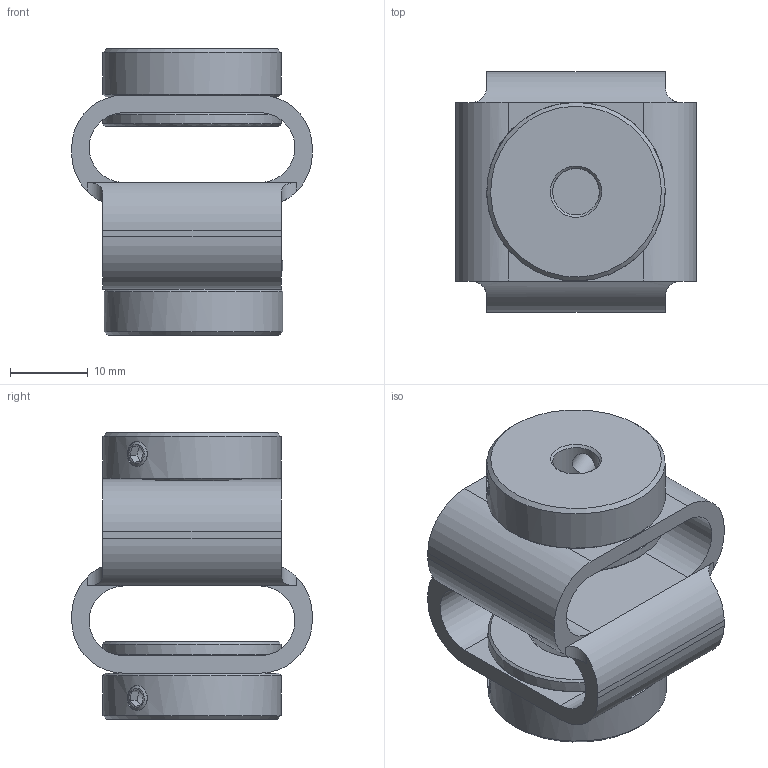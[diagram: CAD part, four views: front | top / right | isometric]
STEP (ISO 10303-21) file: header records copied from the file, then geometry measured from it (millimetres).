
FILE_DESCRIPTION(/* description */ (''),/* implementation_level */ '2;1');
FILE_NAME(/* name */ 'E:\ABP_bauteile\Doppelschlaufenkupplung\DKPS_3835\Doppelschlaufenkupplung_DKPS_3835_06_12.stp',/* time_stamp */ '2015-03-09T15:01:00+01:00',/* author */ ('Rob'),/* organization */ (''),/* preprocessor_version */ 'ST-DEVELOPER v15.6',/* originating_system */ 'Autodesk Inventor 2015',/* authorisation */ '');
FILE_SCHEMA (('CONFIG_CONTROL_DESIGN'));
Length unit declared in the file: millimetre
Products named in the file (1): Bauteil48
Bounding box: 31 x 31 x 36.95 mm (x, y, z)
Volume: 11368.6 mm3; surface area: 7977.4 mm2
Topology: 1 solids, 3 shells, 149 faces, 369 edges, 225 vertices
Faces by surface type: plane 84, cylinder 35, cone 30
Full cylindrical faces by diameter (mm): 3.242 x8, 6 x1, 12 x1, 14 x2, 15 x2, 23 x4
Entity records: 4237 total; most frequent: CARTESIAN_POINT 1081, DIRECTION 663, ORIENTED_EDGE 580, EDGE_CURVE 290, AXIS2_PLACEMENT_3D 260, EDGE_LOOP 205, VERTEX_POINT 191, FACE_OUTER_BOUND 149
